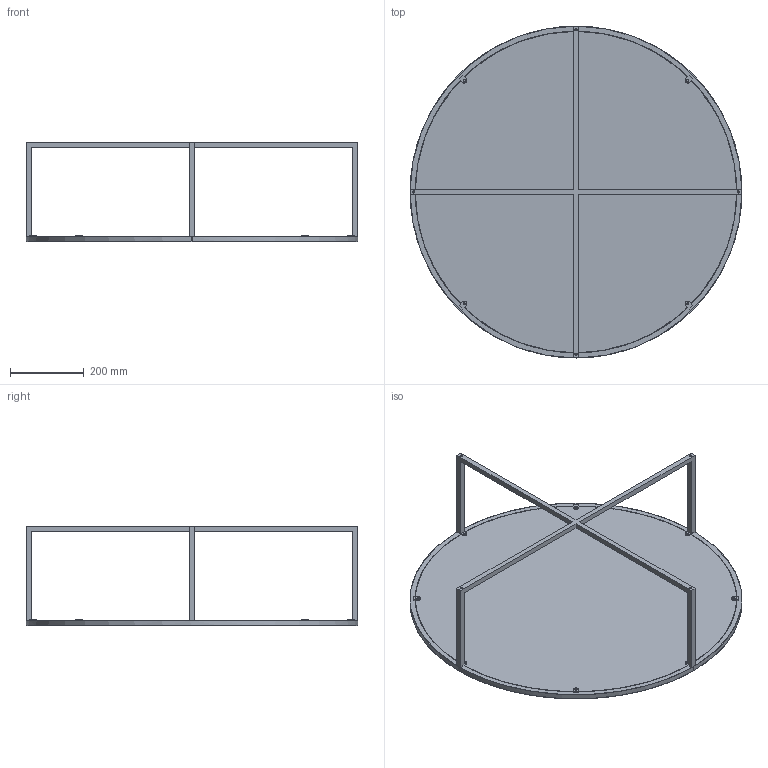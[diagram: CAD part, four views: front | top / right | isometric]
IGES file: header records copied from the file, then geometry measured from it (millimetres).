
Start section: SolidWorks IGES file using analytic representation for surfaces
Global section: file name: V:\01-VICCARBE\VICCARBE HISTORICOS\VICCARBE 2006 TECNICO\PRODUCCION\PRODUCTOS\FAMILIAS 2D - 3D\3D (IGES + STL)\04-HOLY DAY\IGES\HD O 90.IGS; native system: SolidWorks 2005 by SolidWorks Corporation; preprocessor: SolidWorks 2005 by SolidWorks Corporation; author: FSanz; date: 070522.182953; units: millimetre
Bounding box: 900 x 900 x 270 mm (x, y, z)
Surface area: 1545542.4 mm2 (no closed solid volume)
Topology: 0 solids, 0 shells, 122 faces, 3268 edges, 3934 vertices
Faces by surface type: bspline 81, revolution 41
